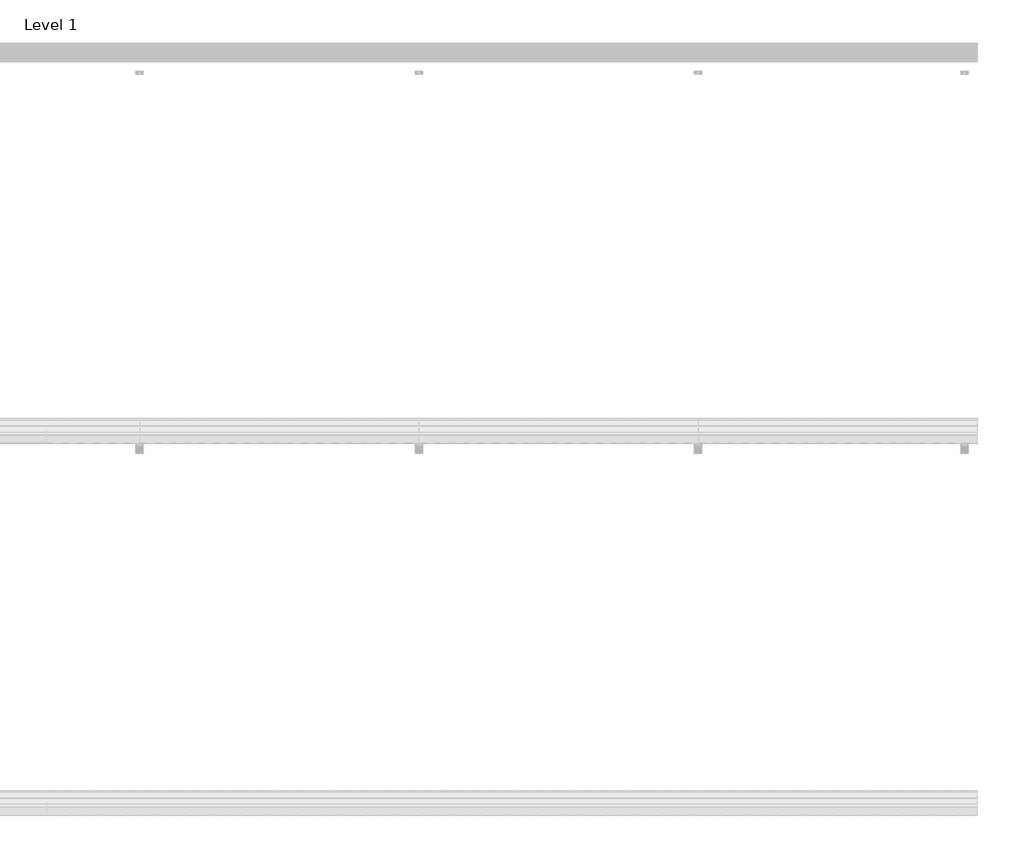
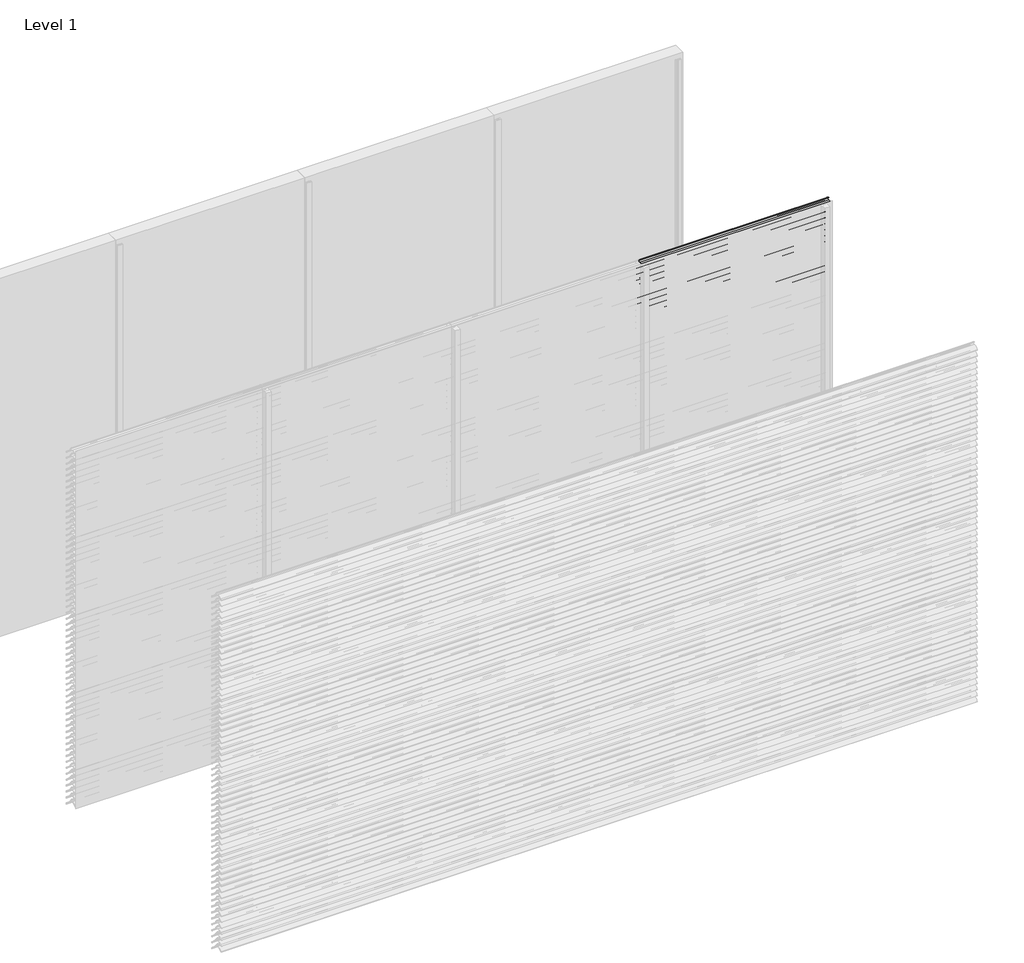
# One storey, part 85 of 173: 18 proxies.
"""IFC4 building model written with IfcOpenShell, lengths in millimetres."""

from ifc_helpers import new_model, si_unit, point, frame, frame_2d, origin, place, context, project, spatial, polyline, circle_curve, trimmed, segment, composite_curve, outline, extrude, element, save

model = new_model("IFC4")

# Units and contexts
model_context = context("Model", 3, world=origin())
ifc_project = project(units=[si_unit("LENGTHUNIT", "METRE", prefix="MILLI")], contexts=[model_context])

# Site, building, storey
site = spatial("IfcSite", under=ifc_project)
building = spatial("IfcBuilding", under=site)
storey = spatial("IfcBuildingStorey", under=building, Name="Level 1", Elevation=0.0)

# Proxies
placement = place(None, origin())
element("IfcBuildingElementProxy", 1, Name="Wall Sweeps", at=placement, inside=storey, context=model_context, shape_type="SweptSolid", body=[
    extrude(outline(composite_curve([segment(polyline([(-29998.0, 209.1474905), (-29998.0, 211.6227417)]), True, "CONTINUOUS"), segment(trimmed(circle_curve(frame_2d((-29951.2682172, 166.2200208)), 65.1557103), [point((-29998.0, 211.6227417))], [point((-29954.4014323, 231.3003524))], False, "CARTESIAN"), True, "CONTINUOUS"), segment(polyline([(-29954.4014323, 231.3003524), (-29934.8315836, 231.3003524)]), True, "CONTINUOUS"), segment(trimmed(circle_curve(frame_2d((-29732.7329489, 378.5533172)), 250.0545817), [point((-29934.8315836, 231.3003524))], [point((-29941.4452143, 240.8344583))], False, "CARTESIAN"), True, "CONTINUOUS"), segment(trimmed(circle_curve(frame_2d((-29953.2981792, 235.1737835)), 13.1352966), [point((-29941.4452143, 240.8344583))], [point((-29953.8171475, 248.298824))], True, "CARTESIAN"), True, "CONTINUOUS"), segment(polyline([(-29953.8171475, 248.298824), (-29953.8171475, 250.0)]), True, "CONTINUOUS"), segment(trimmed(circle_curve(frame_2d((-29953.2981792, 235.1737835)), 14.8352966), [point((-29953.8171475, 250.0))], [point((-29939.9637661, 241.6760487))], False, "CARTESIAN"), True, "CONTINUOUS"), segment(trimmed(circle_curve(frame_2d((-29732.7329489, 378.5533172)), 248.3545817), [point((-29939.9637661, 241.6760487))], [point((-29873.8787895, 174.2059416))], True, "CARTESIAN"), True, "CONTINUOUS"), segment(trimmed(circle_curve(frame_2d((-29883.8147537, 161.6649442)), 16.0), [point((-29873.8787895, 174.2059416))], [point((-29867.8648347, 160.4))], False, "CARTESIAN"), True, "CONTINUOUS"), segment(polyline([(-29867.8648347, 160.4), (-29869.6712069, 160.4)]), True, "CONTINUOUS"), segment(trimmed(circle_curve(frame_2d((-29883.8147537, 161.6649442)), 14.2), [point((-29869.6712069, 160.4))], [point((-29874.9518628, 172.7594998))], True, "CARTESIAN"), True, "CONTINUOUS"), segment(trimmed(circle_curve(frame_2d((-29732.7329489, 378.5533172)), 250.1545817), [point((-29874.9518628, 172.7594998))], [point((-29933.7064024, 229.6003524))], False, "CARTESIAN"), True, "CONTINUOUS"), segment(polyline([(-29933.7064024, 229.6003524), (-29954.3602632, 229.6003524)]), True, "CONTINUOUS"), segment(trimmed(circle_curve(frame_2d((-29951.2682172, 166.2200208)), 63.4557103), [point((-29954.3602632, 229.6003524))], [point((-29998.0, 209.1474905))], True, "CARTESIAN"), True, "CONTINUOUS")], self_intersect=False)), frame((3000.0, 0.0, 0.0), z_axis=(1.0, 0.0, 0.0), x_axis=(0.0, 1.0, 0.0)), (0.0, 0.0, 1.0), 1500.0),
])
element("IfcBuildingElementProxy", 2, Name="Wall Sweeps", at=placement, inside=storey, context=model_context, shape_type="SweptSolid", body=[
    extrude(outline(composite_curve([segment(polyline([(-29998.0, 159.1474905), (-29998.0, 161.6227417)]), True, "CONTINUOUS"), segment(trimmed(circle_curve(frame_2d((-29951.2682172, 116.2200208)), 65.1557103), [point((-29998.0, 161.6227417))], [point((-29954.4014323, 181.3003524))], False, "CARTESIAN"), True, "CONTINUOUS"), segment(polyline([(-29954.4014323, 181.3003524), (-29934.8315836, 181.3003524)]), True, "CONTINUOUS"), segment(trimmed(circle_curve(frame_2d((-29732.7329489, 328.5533172)), 250.0545817), [point((-29934.8315836, 181.3003524))], [point((-29941.4452143, 190.8344583))], False, "CARTESIAN"), True, "CONTINUOUS"), segment(trimmed(circle_curve(frame_2d((-29953.2981792, 185.1737835)), 13.1352966), [point((-29941.4452143, 190.8344583))], [point((-29953.8171475, 198.298824))], True, "CARTESIAN"), True, "CONTINUOUS"), segment(polyline([(-29953.8171475, 198.298824), (-29953.8171475, 200.0)]), True, "CONTINUOUS"), segment(trimmed(circle_curve(frame_2d((-29953.2981792, 185.1737835)), 14.8352966), [point((-29953.8171475, 200.0))], [point((-29939.9637661, 191.6760487))], False, "CARTESIAN"), True, "CONTINUOUS"), segment(trimmed(circle_curve(frame_2d((-29732.7329489, 328.5533172)), 248.3545817), [point((-29939.9637661, 191.6760487))], [point((-29873.8787895, 124.2059416))], True, "CARTESIAN"), True, "CONTINUOUS"), segment(trimmed(circle_curve(frame_2d((-29883.8147537, 111.6649442)), 16.0), [point((-29873.8787895, 124.2059416))], [point((-29867.8648347, 110.4))], False, "CARTESIAN"), True, "CONTINUOUS"), segment(polyline([(-29867.8648347, 110.4), (-29869.6712069, 110.4)]), True, "CONTINUOUS"), segment(trimmed(circle_curve(frame_2d((-29883.8147537, 111.6649442)), 14.2), [point((-29869.6712069, 110.4))], [point((-29874.9518628, 122.7594998))], True, "CARTESIAN"), True, "CONTINUOUS"), segment(trimmed(circle_curve(frame_2d((-29732.7329489, 328.5533172)), 250.1545817), [point((-29874.9518628, 122.7594998))], [point((-29933.7064024, 179.6003524))], False, "CARTESIAN"), True, "CONTINUOUS"), segment(polyline([(-29933.7064024, 179.6003524), (-29954.3602632, 179.6003524)]), True, "CONTINUOUS"), segment(trimmed(circle_curve(frame_2d((-29951.2682172, 116.2200208)), 63.4557103), [point((-29954.3602632, 179.6003524))], [point((-29998.0, 159.1474905))], True, "CARTESIAN"), True, "CONTINUOUS")], self_intersect=False)), frame((3000.0, 0.0, 0.0), z_axis=(1.0, 0.0, 0.0), x_axis=(0.0, 1.0, 0.0)), (0.0, 0.0, 1.0), 1500.0),
])
element("IfcBuildingElementProxy", 3, Name="Wall Sweeps", at=placement, inside=storey, context=model_context, shape_type="SweptSolid", body=[
    extrude(outline(composite_curve([segment(polyline([(-29998.0, 109.1474905), (-29998.0, 111.6227417)]), True, "CONTINUOUS"), segment(trimmed(circle_curve(frame_2d((-29951.2682172, 66.2200208)), 65.1557103), [point((-29998.0, 111.6227417))], [point((-29954.4014323, 131.3003524))], False, "CARTESIAN"), True, "CONTINUOUS"), segment(polyline([(-29954.4014323, 131.3003524), (-29934.8315836, 131.3003524)]), True, "CONTINUOUS"), segment(trimmed(circle_curve(frame_2d((-29732.7329489, 278.5533172)), 250.0545817), [point((-29934.8315836, 131.3003524))], [point((-29941.4452143, 140.8344583))], False, "CARTESIAN"), True, "CONTINUOUS"), segment(trimmed(circle_curve(frame_2d((-29953.2981792, 135.1737835)), 13.1352966), [point((-29941.4452143, 140.8344583))], [point((-29953.8171475, 148.298824))], True, "CARTESIAN"), True, "CONTINUOUS"), segment(polyline([(-29953.8171475, 148.298824), (-29953.8171475, 150.0)]), True, "CONTINUOUS"), segment(trimmed(circle_curve(frame_2d((-29953.2981792, 135.1737835)), 14.8352966), [point((-29953.8171475, 150.0))], [point((-29939.9637661, 141.6760487))], False, "CARTESIAN"), True, "CONTINUOUS"), segment(trimmed(circle_curve(frame_2d((-29732.7329489, 278.5533172)), 248.3545817), [point((-29939.9637661, 141.6760487))], [point((-29873.8787895, 74.2059416))], True, "CARTESIAN"), True, "CONTINUOUS"), segment(trimmed(circle_curve(frame_2d((-29883.8147537, 61.6649442)), 16.0), [point((-29873.8787895, 74.2059416))], [point((-29867.8648347, 60.4))], False, "CARTESIAN"), True, "CONTINUOUS"), segment(polyline([(-29867.8648347, 60.4), (-29869.6712069, 60.4)]), True, "CONTINUOUS"), segment(trimmed(circle_curve(frame_2d((-29883.8147537, 61.6649442)), 14.2), [point((-29869.6712069, 60.4))], [point((-29874.9518628, 72.7594998))], True, "CARTESIAN"), True, "CONTINUOUS"), segment(trimmed(circle_curve(frame_2d((-29732.7329489, 278.5533172)), 250.1545817), [point((-29874.9518628, 72.7594998))], [point((-29933.7064024, 129.6003524))], False, "CARTESIAN"), True, "CONTINUOUS"), segment(polyline([(-29933.7064024, 129.6003524), (-29954.3602632, 129.6003524)]), True, "CONTINUOUS"), segment(trimmed(circle_curve(frame_2d((-29951.2682172, 66.2200208)), 63.4557103), [point((-29954.3602632, 129.6003524))], [point((-29998.0, 109.1474905))], True, "CARTESIAN"), True, "CONTINUOUS")], self_intersect=False)), frame((3000.0, 0.0, 0.0), z_axis=(1.0, 0.0, 0.0), x_axis=(0.0, 1.0, 0.0)), (0.0, 0.0, 1.0), 1500.0),
])
element("IfcBuildingElementProxy", 4, Name="Wall Sweeps", at=placement, inside=storey, context=model_context, shape_type="SweptSolid", body=[
    extrude(outline(composite_curve([segment(polyline([(-29998.0, 59.1474905), (-29998.0, 61.6227417)]), True, "CONTINUOUS"), segment(trimmed(circle_curve(frame_2d((-29951.2682172, 16.2200208)), 65.1557103), [point((-29998.0, 61.6227417))], [point((-29954.4014323, 81.3003524))], False, "CARTESIAN"), True, "CONTINUOUS"), segment(polyline([(-29954.4014323, 81.3003524), (-29934.8315836, 81.3003524)]), True, "CONTINUOUS"), segment(trimmed(circle_curve(frame_2d((-29732.7329489, 228.5533172)), 250.0545817), [point((-29934.8315836, 81.3003524))], [point((-29941.4452143, 90.8344583))], False, "CARTESIAN"), True, "CONTINUOUS"), segment(trimmed(circle_curve(frame_2d((-29953.2981792, 85.1737835)), 13.1352966), [point((-29941.4452143, 90.8344583))], [point((-29953.8171475, 98.298824))], True, "CARTESIAN"), True, "CONTINUOUS"), segment(polyline([(-29953.8171475, 98.298824), (-29953.8171475, 100.0)]), True, "CONTINUOUS"), segment(trimmed(circle_curve(frame_2d((-29953.2981792, 85.1737835)), 14.8352966), [point((-29953.8171475, 100.0))], [point((-29939.9637661, 91.6760487))], False, "CARTESIAN"), True, "CONTINUOUS"), segment(trimmed(circle_curve(frame_2d((-29732.7329489, 228.5533172)), 248.3545817), [point((-29939.9637661, 91.6760487))], [point((-29873.8787895, 24.2059416))], True, "CARTESIAN"), True, "CONTINUOUS"), segment(trimmed(circle_curve(frame_2d((-29883.8147537, 11.6649442)), 16.0), [point((-29873.8787895, 24.2059416))], [point((-29867.8648347, 10.4))], False, "CARTESIAN"), True, "CONTINUOUS"), segment(polyline([(-29867.8648347, 10.4), (-29869.6712069, 10.4)]), True, "CONTINUOUS"), segment(trimmed(circle_curve(frame_2d((-29883.8147537, 11.6649442)), 14.2), [point((-29869.6712069, 10.4))], [point((-29874.9518628, 22.7594998))], True, "CARTESIAN"), True, "CONTINUOUS"), segment(trimmed(circle_curve(frame_2d((-29732.7329489, 228.5533172)), 250.1545817), [point((-29874.9518628, 22.7594998))], [point((-29933.7064024, 79.6003524))], False, "CARTESIAN"), True, "CONTINUOUS"), segment(polyline([(-29933.7064024, 79.6003524), (-29954.3602632, 79.6003524)]), True, "CONTINUOUS"), segment(trimmed(circle_curve(frame_2d((-29951.2682172, 16.2200208)), 63.4557103), [point((-29954.3602632, 79.6003524))], [point((-29998.0, 59.1474905))], True, "CARTESIAN"), True, "CONTINUOUS")], self_intersect=False)), frame((3000.0, 0.0, 0.0), z_axis=(1.0, 0.0, 0.0), x_axis=(0.0, 1.0, 0.0)), (0.0, 0.0, 1.0), 1500.0),
])
element("IfcBuildingElementProxy", 5, Name="Wall Sweeps", at=placement, inside=storey, context=model_context, shape_type="SweptSolid", body=[
    extrude(outline(composite_curve([segment(polyline([(-29998.0, 9.1474905), (-29998.0, 11.6227417)]), True, "CONTINUOUS"), segment(trimmed(circle_curve(frame_2d((-29951.2682172, -33.7799792)), 65.1557103), [point((-29998.0, 11.6227417))], [point((-29954.4014323, 31.3003524))], False, "CARTESIAN"), True, "CONTINUOUS"), segment(polyline([(-29954.4014323, 31.3003524), (-29934.8315836, 31.3003524)]), True, "CONTINUOUS"), segment(trimmed(circle_curve(frame_2d((-29732.7329489, 178.5533172)), 250.0545817), [point((-29934.8315836, 31.3003524))], [point((-29941.4452143, 40.8344583))], False, "CARTESIAN"), True, "CONTINUOUS"), segment(trimmed(circle_curve(frame_2d((-29953.2981792, 35.1737835)), 13.1352966), [point((-29941.4452143, 40.8344583))], [point((-29953.8171475, 48.298824))], True, "CARTESIAN"), True, "CONTINUOUS"), segment(polyline([(-29953.8171475, 48.298824), (-29953.8171475, 50.0)]), True, "CONTINUOUS"), segment(trimmed(circle_curve(frame_2d((-29953.2981792, 35.1737835)), 14.8352966), [point((-29953.8171475, 50.0))], [point((-29939.9637661, 41.6760487))], False, "CARTESIAN"), True, "CONTINUOUS"), segment(trimmed(circle_curve(frame_2d((-29732.7329489, 178.5533172)), 248.3545817), [point((-29939.9637661, 41.6760487))], [point((-29873.8787895, -25.7940584))], True, "CARTESIAN"), True, "CONTINUOUS"), segment(trimmed(circle_curve(frame_2d((-29883.8147537, -38.3350558)), 16.0), [point((-29873.8787895, -25.7940584))], [point((-29867.8648347, -39.6))], False, "CARTESIAN"), True, "CONTINUOUS"), segment(polyline([(-29867.8648347, -39.6), (-29869.6712069, -39.6)]), True, "CONTINUOUS"), segment(trimmed(circle_curve(frame_2d((-29883.8147537, -38.3350558)), 14.2), [point((-29869.6712069, -39.6))], [point((-29874.9518628, -27.2405002))], True, "CARTESIAN"), True, "CONTINUOUS"), segment(trimmed(circle_curve(frame_2d((-29732.7329489, 178.5533172)), 250.1545817), [point((-29874.9518628, -27.2405002))], [point((-29933.7064024, 29.6003524))], False, "CARTESIAN"), True, "CONTINUOUS"), segment(polyline([(-29933.7064024, 29.6003524), (-29954.3602632, 29.6003524)]), True, "CONTINUOUS"), segment(trimmed(circle_curve(frame_2d((-29951.2682172, -33.7799792)), 63.4557103), [point((-29954.3602632, 29.6003524))], [point((-29998.0, 9.1474905))], True, "CARTESIAN"), True, "CONTINUOUS")], self_intersect=False)), frame((3000.0, 0.0, 0.0), z_axis=(1.0, 0.0, 0.0), x_axis=(0.0, 1.0, 0.0)), (0.0, 0.0, 1.0), 1500.0),
])
element("IfcBuildingElementProxy", 6, Name="Wall Sweeps", at=placement, inside=storey, context=model_context, shape_type="SweptSolid", body=[
    extrude(outline(composite_curve([segment(polyline([(-29998.0, 2959.1474905), (-29998.0, 2961.6227417)]), True, "CONTINUOUS"), segment(trimmed(circle_curve(frame_2d((-29951.2682172, 2916.2200208)), 65.1557103), [point((-29998.0, 2961.6227417))], [point((-29954.4014323, 2981.3003524))], False, "CARTESIAN"), True, "CONTINUOUS"), segment(polyline([(-29954.4014323, 2981.3003524), (-29934.8315836, 2981.3003524)]), True, "CONTINUOUS"), segment(trimmed(circle_curve(frame_2d((-29732.7329489, 3128.5533172)), 250.0545817), [point((-29934.8315836, 2981.3003524))], [point((-29941.4452143, 2990.8344583))], False, "CARTESIAN"), True, "CONTINUOUS"), segment(trimmed(circle_curve(frame_2d((-29953.2981792, 2985.1737835)), 13.1352966), [point((-29941.4452143, 2990.8344583))], [point((-29953.8171475, 2998.298824))], True, "CARTESIAN"), True, "CONTINUOUS"), segment(polyline([(-29953.8171475, 2998.298824), (-29953.8171475, 3000.0)]), True, "CONTINUOUS"), segment(trimmed(circle_curve(frame_2d((-29953.2981792, 2985.1737835)), 14.8352966), [point((-29953.8171475, 3000.0))], [point((-29939.9637661, 2991.6760487))], False, "CARTESIAN"), True, "CONTINUOUS"), segment(trimmed(circle_curve(frame_2d((-29732.7329489, 3128.5533172)), 248.3545817), [point((-29939.9637661, 2991.6760487))], [point((-29873.8787895, 2924.2059416))], True, "CARTESIAN"), True, "CONTINUOUS"), segment(trimmed(circle_curve(frame_2d((-29883.8147537, 2911.6649442)), 16.0), [point((-29873.8787895, 2924.2059416))], [point((-29867.8648347, 2910.4))], False, "CARTESIAN"), True, "CONTINUOUS"), segment(polyline([(-29867.8648347, 2910.4), (-29869.6712069, 2910.4)]), True, "CONTINUOUS"), segment(trimmed(circle_curve(frame_2d((-29883.8147537, 2911.6649442)), 14.2), [point((-29869.6712069, 2910.4))], [point((-29874.9518628, 2922.7594998))], True, "CARTESIAN"), True, "CONTINUOUS"), segment(trimmed(circle_curve(frame_2d((-29732.7329489, 3128.5533172)), 250.1545817), [point((-29874.9518628, 2922.7594998))], [point((-29933.7064024, 2979.6003524))], False, "CARTESIAN"), True, "CONTINUOUS"), segment(polyline([(-29933.7064024, 2979.6003524), (-29954.3602632, 2979.6003524)]), True, "CONTINUOUS"), segment(trimmed(circle_curve(frame_2d((-29951.2682172, 2916.2200208)), 63.4557103), [point((-29954.3602632, 2979.6003524))], [point((-29998.0, 2959.1474905))], True, "CARTESIAN"), True, "CONTINUOUS")], self_intersect=False)), frame((4500.0, 0.0, 0.0), z_axis=(1.0, 0.0, 0.0), x_axis=(0.0, 1.0, 0.0)), (0.0, 0.0, 1.0), 1500.0),
])
element("IfcBuildingElementProxy", 7, Name="Wall Sweeps", at=placement, inside=storey, context=model_context, shape_type="SweptSolid", body=[
    extrude(outline(composite_curve([segment(polyline([(-29998.0, 2909.1474905), (-29998.0, 2911.6227417)]), True, "CONTINUOUS"), segment(trimmed(circle_curve(frame_2d((-29951.2682172, 2866.2200208)), 65.1557103), [point((-29998.0, 2911.6227417))], [point((-29954.4014323, 2931.3003524))], False, "CARTESIAN"), True, "CONTINUOUS"), segment(polyline([(-29954.4014323, 2931.3003524), (-29934.8315836, 2931.3003524)]), True, "CONTINUOUS"), segment(trimmed(circle_curve(frame_2d((-29732.7329489, 3078.5533172)), 250.0545817), [point((-29934.8315836, 2931.3003524))], [point((-29941.4452143, 2940.8344583))], False, "CARTESIAN"), True, "CONTINUOUS"), segment(trimmed(circle_curve(frame_2d((-29953.2981792, 2935.1737835)), 13.1352966), [point((-29941.4452143, 2940.8344583))], [point((-29953.8171475, 2948.298824))], True, "CARTESIAN"), True, "CONTINUOUS"), segment(polyline([(-29953.8171475, 2948.298824), (-29953.8171475, 2950.0)]), True, "CONTINUOUS"), segment(trimmed(circle_curve(frame_2d((-29953.2981792, 2935.1737835)), 14.8352966), [point((-29953.8171475, 2950.0))], [point((-29939.9637661, 2941.6760487))], False, "CARTESIAN"), True, "CONTINUOUS"), segment(trimmed(circle_curve(frame_2d((-29732.7329489, 3078.5533172)), 248.3545817), [point((-29939.9637661, 2941.6760487))], [point((-29873.8787895, 2874.2059416))], True, "CARTESIAN"), True, "CONTINUOUS"), segment(trimmed(circle_curve(frame_2d((-29883.8147537, 2861.6649442)), 16.0), [point((-29873.8787895, 2874.2059416))], [point((-29867.8648347, 2860.4))], False, "CARTESIAN"), True, "CONTINUOUS"), segment(polyline([(-29867.8648347, 2860.4), (-29869.6712069, 2860.4)]), True, "CONTINUOUS"), segment(trimmed(circle_curve(frame_2d((-29883.8147537, 2861.6649442)), 14.2), [point((-29869.6712069, 2860.4))], [point((-29874.9518628, 2872.7594998))], True, "CARTESIAN"), True, "CONTINUOUS"), segment(trimmed(circle_curve(frame_2d((-29732.7329489, 3078.5533172)), 250.1545817), [point((-29874.9518628, 2872.7594998))], [point((-29933.7064024, 2929.6003524))], False, "CARTESIAN"), True, "CONTINUOUS"), segment(polyline([(-29933.7064024, 2929.6003524), (-29954.3602632, 2929.6003524)]), True, "CONTINUOUS"), segment(trimmed(circle_curve(frame_2d((-29951.2682172, 2866.2200208)), 63.4557103), [point((-29954.3602632, 2929.6003524))], [point((-29998.0, 2909.1474905))], True, "CARTESIAN"), True, "CONTINUOUS")], self_intersect=False)), frame((4500.0, 0.0, 0.0), z_axis=(1.0, 0.0, 0.0), x_axis=(0.0, 1.0, 0.0)), (0.0, 0.0, 1.0), 1500.0),
])
element("IfcBuildingElementProxy", 8, Name="Wall Sweeps", at=placement, inside=storey, context=model_context, shape_type="SweptSolid", body=[
    extrude(outline(composite_curve([segment(polyline([(-29998.0, 2859.1474905), (-29998.0, 2861.6227417)]), True, "CONTINUOUS"), segment(trimmed(circle_curve(frame_2d((-29951.2682172, 2816.2200208)), 65.1557103), [point((-29998.0, 2861.6227417))], [point((-29954.4014323, 2881.3003524))], False, "CARTESIAN"), True, "CONTINUOUS"), segment(polyline([(-29954.4014323, 2881.3003524), (-29934.8315836, 2881.3003524)]), True, "CONTINUOUS"), segment(trimmed(circle_curve(frame_2d((-29732.7329489, 3028.5533172)), 250.0545817), [point((-29934.8315836, 2881.3003524))], [point((-29941.4452143, 2890.8344583))], False, "CARTESIAN"), True, "CONTINUOUS"), segment(trimmed(circle_curve(frame_2d((-29953.2981792, 2885.1737835)), 13.1352966), [point((-29941.4452143, 2890.8344583))], [point((-29953.8171475, 2898.298824))], True, "CARTESIAN"), True, "CONTINUOUS"), segment(polyline([(-29953.8171475, 2898.298824), (-29953.8171475, 2900.0)]), True, "CONTINUOUS"), segment(trimmed(circle_curve(frame_2d((-29953.2981792, 2885.1737835)), 14.8352966), [point((-29953.8171475, 2900.0))], [point((-29939.9637661, 2891.6760487))], False, "CARTESIAN"), True, "CONTINUOUS"), segment(trimmed(circle_curve(frame_2d((-29732.7329489, 3028.5533172)), 248.3545817), [point((-29939.9637661, 2891.6760487))], [point((-29873.8787895, 2824.2059416))], True, "CARTESIAN"), True, "CONTINUOUS"), segment(trimmed(circle_curve(frame_2d((-29883.8147537, 2811.6649442)), 16.0), [point((-29873.8787895, 2824.2059416))], [point((-29867.8648347, 2810.4))], False, "CARTESIAN"), True, "CONTINUOUS"), segment(polyline([(-29867.8648347, 2810.4), (-29869.6712069, 2810.4)]), True, "CONTINUOUS"), segment(trimmed(circle_curve(frame_2d((-29883.8147537, 2811.6649442)), 14.2), [point((-29869.6712069, 2810.4))], [point((-29874.9518628, 2822.7594998))], True, "CARTESIAN"), True, "CONTINUOUS"), segment(trimmed(circle_curve(frame_2d((-29732.7329489, 3028.5533172)), 250.1545817), [point((-29874.9518628, 2822.7594998))], [point((-29933.7064024, 2879.6003524))], False, "CARTESIAN"), True, "CONTINUOUS"), segment(polyline([(-29933.7064024, 2879.6003524), (-29954.3602632, 2879.6003524)]), True, "CONTINUOUS"), segment(trimmed(circle_curve(frame_2d((-29951.2682172, 2816.2200208)), 63.4557103), [point((-29954.3602632, 2879.6003524))], [point((-29998.0, 2859.1474905))], True, "CARTESIAN"), True, "CONTINUOUS")], self_intersect=False)), frame((4500.0, 0.0, 0.0), z_axis=(1.0, 0.0, 0.0), x_axis=(0.0, 1.0, 0.0)), (0.0, 0.0, 1.0), 1500.0),
])
element("IfcBuildingElementProxy", 9, Name="Wall Sweeps", at=placement, inside=storey, context=model_context, shape_type="SweptSolid", body=[
    extrude(outline(composite_curve([segment(polyline([(-29998.0, 2809.1474905), (-29998.0, 2811.6227417)]), True, "CONTINUOUS"), segment(trimmed(circle_curve(frame_2d((-29951.2682172, 2766.2200208)), 65.1557103), [point((-29998.0, 2811.6227417))], [point((-29954.4014323, 2831.3003524))], False, "CARTESIAN"), True, "CONTINUOUS"), segment(polyline([(-29954.4014323, 2831.3003524), (-29934.8315836, 2831.3003524)]), True, "CONTINUOUS"), segment(trimmed(circle_curve(frame_2d((-29732.7329489, 2978.5533172)), 250.0545817), [point((-29934.8315836, 2831.3003524))], [point((-29941.4452143, 2840.8344583))], False, "CARTESIAN"), True, "CONTINUOUS"), segment(trimmed(circle_curve(frame_2d((-29953.2981792, 2835.1737835)), 13.1352966), [point((-29941.4452143, 2840.8344583))], [point((-29953.8171475, 2848.298824))], True, "CARTESIAN"), True, "CONTINUOUS"), segment(polyline([(-29953.8171475, 2848.298824), (-29953.8171475, 2850.0)]), True, "CONTINUOUS"), segment(trimmed(circle_curve(frame_2d((-29953.2981792, 2835.1737835)), 14.8352966), [point((-29953.8171475, 2850.0))], [point((-29939.9637661, 2841.6760487))], False, "CARTESIAN"), True, "CONTINUOUS"), segment(trimmed(circle_curve(frame_2d((-29732.7329489, 2978.5533172)), 248.3545817), [point((-29939.9637661, 2841.6760487))], [point((-29873.8787895, 2774.2059416))], True, "CARTESIAN"), True, "CONTINUOUS"), segment(trimmed(circle_curve(frame_2d((-29883.8147537, 2761.6649442)), 16.0), [point((-29873.8787895, 2774.2059416))], [point((-29867.8648347, 2760.4))], False, "CARTESIAN"), True, "CONTINUOUS"), segment(polyline([(-29867.8648347, 2760.4), (-29869.6712069, 2760.4)]), True, "CONTINUOUS"), segment(trimmed(circle_curve(frame_2d((-29883.8147537, 2761.6649442)), 14.2), [point((-29869.6712069, 2760.4))], [point((-29874.9518628, 2772.7594998))], True, "CARTESIAN"), True, "CONTINUOUS"), segment(trimmed(circle_curve(frame_2d((-29732.7329489, 2978.5533172)), 250.1545817), [point((-29874.9518628, 2772.7594998))], [point((-29933.7064024, 2829.6003524))], False, "CARTESIAN"), True, "CONTINUOUS"), segment(polyline([(-29933.7064024, 2829.6003524), (-29954.3602632, 2829.6003524)]), True, "CONTINUOUS"), segment(trimmed(circle_curve(frame_2d((-29951.2682172, 2766.2200208)), 63.4557103), [point((-29954.3602632, 2829.6003524))], [point((-29998.0, 2809.1474905))], True, "CARTESIAN"), True, "CONTINUOUS")], self_intersect=False)), frame((4500.0, 0.0, 0.0), z_axis=(1.0, 0.0, 0.0), x_axis=(0.0, 1.0, 0.0)), (0.0, 0.0, 1.0), 1500.0),
])
element("IfcBuildingElementProxy", 10, Name="Wall Sweeps", at=placement, inside=storey, context=model_context, shape_type="SweptSolid", body=[
    extrude(outline(composite_curve([segment(polyline([(-29998.0, 2759.1474905), (-29998.0, 2761.6227417)]), True, "CONTINUOUS"), segment(trimmed(circle_curve(frame_2d((-29951.2682172, 2716.2200208)), 65.1557103), [point((-29998.0, 2761.6227417))], [point((-29954.4014323, 2781.3003524))], False, "CARTESIAN"), True, "CONTINUOUS"), segment(polyline([(-29954.4014323, 2781.3003524), (-29934.8315836, 2781.3003524)]), True, "CONTINUOUS"), segment(trimmed(circle_curve(frame_2d((-29732.7329489, 2928.5533172)), 250.0545817), [point((-29934.8315836, 2781.3003524))], [point((-29941.4452143, 2790.8344583))], False, "CARTESIAN"), True, "CONTINUOUS"), segment(trimmed(circle_curve(frame_2d((-29953.2981792, 2785.1737835)), 13.1352966), [point((-29941.4452143, 2790.8344583))], [point((-29953.8171475, 2798.298824))], True, "CARTESIAN"), True, "CONTINUOUS"), segment(polyline([(-29953.8171475, 2798.298824), (-29953.8171475, 2800.0)]), True, "CONTINUOUS"), segment(trimmed(circle_curve(frame_2d((-29953.2981792, 2785.1737835)), 14.8352966), [point((-29953.8171475, 2800.0))], [point((-29939.9637661, 2791.6760487))], False, "CARTESIAN"), True, "CONTINUOUS"), segment(trimmed(circle_curve(frame_2d((-29732.7329489, 2928.5533172)), 248.3545817), [point((-29939.9637661, 2791.6760487))], [point((-29873.8787895, 2724.2059416))], True, "CARTESIAN"), True, "CONTINUOUS"), segment(trimmed(circle_curve(frame_2d((-29883.8147537, 2711.6649442)), 16.0), [point((-29873.8787895, 2724.2059416))], [point((-29867.8648347, 2710.4))], False, "CARTESIAN"), True, "CONTINUOUS"), segment(polyline([(-29867.8648347, 2710.4), (-29869.6712069, 2710.4)]), True, "CONTINUOUS"), segment(trimmed(circle_curve(frame_2d((-29883.8147537, 2711.6649442)), 14.2), [point((-29869.6712069, 2710.4))], [point((-29874.9518628, 2722.7594998))], True, "CARTESIAN"), True, "CONTINUOUS"), segment(trimmed(circle_curve(frame_2d((-29732.7329489, 2928.5533172)), 250.1545817), [point((-29874.9518628, 2722.7594998))], [point((-29933.7064024, 2779.6003524))], False, "CARTESIAN"), True, "CONTINUOUS"), segment(polyline([(-29933.7064024, 2779.6003524), (-29954.3602632, 2779.6003524)]), True, "CONTINUOUS"), segment(trimmed(circle_curve(frame_2d((-29951.2682172, 2716.2200208)), 63.4557103), [point((-29954.3602632, 2779.6003524))], [point((-29998.0, 2759.1474905))], True, "CARTESIAN"), True, "CONTINUOUS")], self_intersect=False)), frame((4500.0, 0.0, 0.0), z_axis=(1.0, 0.0, 0.0), x_axis=(0.0, 1.0, 0.0)), (0.0, 0.0, 1.0), 1500.0),
])
element("IfcBuildingElementProxy", 11, Name="Wall Sweeps", at=placement, inside=storey, context=model_context, shape_type="SweptSolid", body=[
    extrude(outline(composite_curve([segment(polyline([(-29998.0, 2709.1474905), (-29998.0, 2711.6227417)]), True, "CONTINUOUS"), segment(trimmed(circle_curve(frame_2d((-29951.2682172, 2666.2200208)), 65.1557103), [point((-29998.0, 2711.6227417))], [point((-29954.4014323, 2731.3003524))], False, "CARTESIAN"), True, "CONTINUOUS"), segment(polyline([(-29954.4014323, 2731.3003524), (-29934.8315836, 2731.3003524)]), True, "CONTINUOUS"), segment(trimmed(circle_curve(frame_2d((-29732.7329489, 2878.5533172)), 250.0545817), [point((-29934.8315836, 2731.3003524))], [point((-29941.4452143, 2740.8344583))], False, "CARTESIAN"), True, "CONTINUOUS"), segment(trimmed(circle_curve(frame_2d((-29953.2981792, 2735.1737835)), 13.1352966), [point((-29941.4452143, 2740.8344583))], [point((-29953.8171475, 2748.298824))], True, "CARTESIAN"), True, "CONTINUOUS"), segment(polyline([(-29953.8171475, 2748.298824), (-29953.8171475, 2750.0)]), True, "CONTINUOUS"), segment(trimmed(circle_curve(frame_2d((-29953.2981792, 2735.1737835)), 14.8352966), [point((-29953.8171475, 2750.0))], [point((-29939.9637661, 2741.6760487))], False, "CARTESIAN"), True, "CONTINUOUS"), segment(trimmed(circle_curve(frame_2d((-29732.7329489, 2878.5533172)), 248.3545817), [point((-29939.9637661, 2741.6760487))], [point((-29873.8787895, 2674.2059416))], True, "CARTESIAN"), True, "CONTINUOUS"), segment(trimmed(circle_curve(frame_2d((-29883.8147537, 2661.6649442)), 16.0), [point((-29873.8787895, 2674.2059416))], [point((-29867.8648347, 2660.4))], False, "CARTESIAN"), True, "CONTINUOUS"), segment(polyline([(-29867.8648347, 2660.4), (-29869.6712069, 2660.4)]), True, "CONTINUOUS"), segment(trimmed(circle_curve(frame_2d((-29883.8147537, 2661.6649442)), 14.2), [point((-29869.6712069, 2660.4))], [point((-29874.9518628, 2672.7594998))], True, "CARTESIAN"), True, "CONTINUOUS"), segment(trimmed(circle_curve(frame_2d((-29732.7329489, 2878.5533172)), 250.1545817), [point((-29874.9518628, 2672.7594998))], [point((-29933.7064024, 2729.6003524))], False, "CARTESIAN"), True, "CONTINUOUS"), segment(polyline([(-29933.7064024, 2729.6003524), (-29954.3602632, 2729.6003524)]), True, "CONTINUOUS"), segment(trimmed(circle_curve(frame_2d((-29951.2682172, 2666.2200208)), 63.4557103), [point((-29954.3602632, 2729.6003524))], [point((-29998.0, 2709.1474905))], True, "CARTESIAN"), True, "CONTINUOUS")], self_intersect=False)), frame((4500.0, 0.0, 0.0), z_axis=(1.0, 0.0, 0.0), x_axis=(0.0, 1.0, 0.0)), (0.0, 0.0, 1.0), 1500.0),
])
element("IfcBuildingElementProxy", 12, Name="Wall Sweeps", at=placement, inside=storey, context=model_context, shape_type="SweptSolid", body=[
    extrude(outline(composite_curve([segment(polyline([(-29998.0, 2659.1474905), (-29998.0, 2661.6227417)]), True, "CONTINUOUS"), segment(trimmed(circle_curve(frame_2d((-29951.2682172, 2616.2200208)), 65.1557103), [point((-29998.0, 2661.6227417))], [point((-29954.4014323, 2681.3003524))], False, "CARTESIAN"), True, "CONTINUOUS"), segment(polyline([(-29954.4014323, 2681.3003524), (-29934.8315836, 2681.3003524)]), True, "CONTINUOUS"), segment(trimmed(circle_curve(frame_2d((-29732.7329489, 2828.5533172)), 250.0545817), [point((-29934.8315836, 2681.3003524))], [point((-29941.4452143, 2690.8344583))], False, "CARTESIAN"), True, "CONTINUOUS"), segment(trimmed(circle_curve(frame_2d((-29953.2981792, 2685.1737835)), 13.1352966), [point((-29941.4452143, 2690.8344583))], [point((-29953.8171475, 2698.298824))], True, "CARTESIAN"), True, "CONTINUOUS"), segment(polyline([(-29953.8171475, 2698.298824), (-29953.8171475, 2700.0)]), True, "CONTINUOUS"), segment(trimmed(circle_curve(frame_2d((-29953.2981792, 2685.1737835)), 14.8352966), [point((-29953.8171475, 2700.0))], [point((-29939.9637661, 2691.6760487))], False, "CARTESIAN"), True, "CONTINUOUS"), segment(trimmed(circle_curve(frame_2d((-29732.7329489, 2828.5533172)), 248.3545817), [point((-29939.9637661, 2691.6760487))], [point((-29873.8787895, 2624.2059416))], True, "CARTESIAN"), True, "CONTINUOUS"), segment(trimmed(circle_curve(frame_2d((-29883.8147537, 2611.6649442)), 16.0), [point((-29873.8787895, 2624.2059416))], [point((-29867.8648347, 2610.4))], False, "CARTESIAN"), True, "CONTINUOUS"), segment(polyline([(-29867.8648347, 2610.4), (-29869.6712069, 2610.4)]), True, "CONTINUOUS"), segment(trimmed(circle_curve(frame_2d((-29883.8147537, 2611.6649442)), 14.2), [point((-29869.6712069, 2610.4))], [point((-29874.9518628, 2622.7594998))], True, "CARTESIAN"), True, "CONTINUOUS"), segment(trimmed(circle_curve(frame_2d((-29732.7329489, 2828.5533172)), 250.1545817), [point((-29874.9518628, 2622.7594998))], [point((-29933.7064024, 2679.6003524))], False, "CARTESIAN"), True, "CONTINUOUS"), segment(polyline([(-29933.7064024, 2679.6003524), (-29954.3602632, 2679.6003524)]), True, "CONTINUOUS"), segment(trimmed(circle_curve(frame_2d((-29951.2682172, 2616.2200208)), 63.4557103), [point((-29954.3602632, 2679.6003524))], [point((-29998.0, 2659.1474905))], True, "CARTESIAN"), True, "CONTINUOUS")], self_intersect=False)), frame((4500.0, 0.0, 0.0), z_axis=(1.0, 0.0, 0.0), x_axis=(0.0, 1.0, 0.0)), (0.0, 0.0, 1.0), 1500.0),
])
element("IfcBuildingElementProxy", 13, Name="Wall Sweeps", at=placement, inside=storey, context=model_context, shape_type="SweptSolid", body=[
    extrude(outline(composite_curve([segment(polyline([(-29998.0, 2609.1474905), (-29998.0, 2611.6227417)]), True, "CONTINUOUS"), segment(trimmed(circle_curve(frame_2d((-29951.2682172, 2566.2200208)), 65.1557103), [point((-29998.0, 2611.6227417))], [point((-29954.4014323, 2631.3003524))], False, "CARTESIAN"), True, "CONTINUOUS"), segment(polyline([(-29954.4014323, 2631.3003524), (-29934.8315836, 2631.3003524)]), True, "CONTINUOUS"), segment(trimmed(circle_curve(frame_2d((-29732.7329489, 2778.5533172)), 250.0545817), [point((-29934.8315836, 2631.3003524))], [point((-29941.4452143, 2640.8344583))], False, "CARTESIAN"), True, "CONTINUOUS"), segment(trimmed(circle_curve(frame_2d((-29953.2981792, 2635.1737835)), 13.1352966), [point((-29941.4452143, 2640.8344583))], [point((-29953.8171475, 2648.298824))], True, "CARTESIAN"), True, "CONTINUOUS"), segment(polyline([(-29953.8171475, 2648.298824), (-29953.8171475, 2650.0)]), True, "CONTINUOUS"), segment(trimmed(circle_curve(frame_2d((-29953.2981792, 2635.1737835)), 14.8352966), [point((-29953.8171475, 2650.0))], [point((-29939.9637661, 2641.6760487))], False, "CARTESIAN"), True, "CONTINUOUS"), segment(trimmed(circle_curve(frame_2d((-29732.7329489, 2778.5533172)), 248.3545817), [point((-29939.9637661, 2641.6760487))], [point((-29873.8787895, 2574.2059416))], True, "CARTESIAN"), True, "CONTINUOUS"), segment(trimmed(circle_curve(frame_2d((-29883.8147537, 2561.6649442)), 16.0), [point((-29873.8787895, 2574.2059416))], [point((-29867.8648347, 2560.4))], False, "CARTESIAN"), True, "CONTINUOUS"), segment(polyline([(-29867.8648347, 2560.4), (-29869.6712069, 2560.4)]), True, "CONTINUOUS"), segment(trimmed(circle_curve(frame_2d((-29883.8147537, 2561.6649442)), 14.2), [point((-29869.6712069, 2560.4))], [point((-29874.9518628, 2572.7594998))], True, "CARTESIAN"), True, "CONTINUOUS"), segment(trimmed(circle_curve(frame_2d((-29732.7329489, 2778.5533172)), 250.1545817), [point((-29874.9518628, 2572.7594998))], [point((-29933.7064024, 2629.6003524))], False, "CARTESIAN"), True, "CONTINUOUS"), segment(polyline([(-29933.7064024, 2629.6003524), (-29954.3602632, 2629.6003524)]), True, "CONTINUOUS"), segment(trimmed(circle_curve(frame_2d((-29951.2682172, 2566.2200208)), 63.4557103), [point((-29954.3602632, 2629.6003524))], [point((-29998.0, 2609.1474905))], True, "CARTESIAN"), True, "CONTINUOUS")], self_intersect=False)), frame((4500.0, 0.0, 0.0), z_axis=(1.0, 0.0, 0.0), x_axis=(0.0, 1.0, 0.0)), (0.0, 0.0, 1.0), 1500.0),
])
element("IfcBuildingElementProxy", 14, Name="Wall Sweeps", at=placement, inside=storey, context=model_context, shape_type="SweptSolid", body=[
    extrude(outline(composite_curve([segment(polyline([(-29998.0, 2559.1474905), (-29998.0, 2561.6227417)]), True, "CONTINUOUS"), segment(trimmed(circle_curve(frame_2d((-29951.2682172, 2516.2200208)), 65.1557103), [point((-29998.0, 2561.6227417))], [point((-29954.4014323, 2581.3003524))], False, "CARTESIAN"), True, "CONTINUOUS"), segment(polyline([(-29954.4014323, 2581.3003524), (-29934.8315836, 2581.3003524)]), True, "CONTINUOUS"), segment(trimmed(circle_curve(frame_2d((-29732.7329489, 2728.5533172)), 250.0545817), [point((-29934.8315836, 2581.3003524))], [point((-29941.4452143, 2590.8344583))], False, "CARTESIAN"), True, "CONTINUOUS"), segment(trimmed(circle_curve(frame_2d((-29953.2981792, 2585.1737835)), 13.1352966), [point((-29941.4452143, 2590.8344583))], [point((-29953.8171475, 2598.298824))], True, "CARTESIAN"), True, "CONTINUOUS"), segment(polyline([(-29953.8171475, 2598.298824), (-29953.8171475, 2600.0)]), True, "CONTINUOUS"), segment(trimmed(circle_curve(frame_2d((-29953.2981792, 2585.1737835)), 14.8352966), [point((-29953.8171475, 2600.0))], [point((-29939.9637661, 2591.6760487))], False, "CARTESIAN"), True, "CONTINUOUS"), segment(trimmed(circle_curve(frame_2d((-29732.7329489, 2728.5533172)), 248.3545817), [point((-29939.9637661, 2591.6760487))], [point((-29873.8787895, 2524.2059416))], True, "CARTESIAN"), True, "CONTINUOUS"), segment(trimmed(circle_curve(frame_2d((-29883.8147537, 2511.6649442)), 16.0), [point((-29873.8787895, 2524.2059416))], [point((-29867.8648347, 2510.4))], False, "CARTESIAN"), True, "CONTINUOUS"), segment(polyline([(-29867.8648347, 2510.4), (-29869.6712069, 2510.4)]), True, "CONTINUOUS"), segment(trimmed(circle_curve(frame_2d((-29883.8147537, 2511.6649442)), 14.2), [point((-29869.6712069, 2510.4))], [point((-29874.9518628, 2522.7594998))], True, "CARTESIAN"), True, "CONTINUOUS"), segment(trimmed(circle_curve(frame_2d((-29732.7329489, 2728.5533172)), 250.1545817), [point((-29874.9518628, 2522.7594998))], [point((-29933.7064024, 2579.6003524))], False, "CARTESIAN"), True, "CONTINUOUS"), segment(polyline([(-29933.7064024, 2579.6003524), (-29954.3602632, 2579.6003524)]), True, "CONTINUOUS"), segment(trimmed(circle_curve(frame_2d((-29951.2682172, 2516.2200208)), 63.4557103), [point((-29954.3602632, 2579.6003524))], [point((-29998.0, 2559.1474905))], True, "CARTESIAN"), True, "CONTINUOUS")], self_intersect=False)), frame((4500.0, 0.0, 0.0), z_axis=(1.0, 0.0, 0.0), x_axis=(0.0, 1.0, 0.0)), (0.0, 0.0, 1.0), 1500.0),
])
element("IfcBuildingElementProxy", 15, Name="Wall Sweeps", at=placement, inside=storey, context=model_context, shape_type="SweptSolid", body=[
    extrude(outline(composite_curve([segment(polyline([(-29998.0, 2509.1474905), (-29998.0, 2511.6227417)]), True, "CONTINUOUS"), segment(trimmed(circle_curve(frame_2d((-29951.2682172, 2466.2200208)), 65.1557103), [point((-29998.0, 2511.6227417))], [point((-29954.4014323, 2531.3003524))], False, "CARTESIAN"), True, "CONTINUOUS"), segment(polyline([(-29954.4014323, 2531.3003524), (-29934.8315836, 2531.3003524)]), True, "CONTINUOUS"), segment(trimmed(circle_curve(frame_2d((-29732.7329489, 2678.5533172)), 250.0545817), [point((-29934.8315836, 2531.3003524))], [point((-29941.4452143, 2540.8344583))], False, "CARTESIAN"), True, "CONTINUOUS"), segment(trimmed(circle_curve(frame_2d((-29953.2981792, 2535.1737835)), 13.1352966), [point((-29941.4452143, 2540.8344583))], [point((-29953.8171475, 2548.298824))], True, "CARTESIAN"), True, "CONTINUOUS"), segment(polyline([(-29953.8171475, 2548.298824), (-29953.8171475, 2550.0)]), True, "CONTINUOUS"), segment(trimmed(circle_curve(frame_2d((-29953.2981792, 2535.1737835)), 14.8352966), [point((-29953.8171475, 2550.0))], [point((-29939.9637661, 2541.6760487))], False, "CARTESIAN"), True, "CONTINUOUS"), segment(trimmed(circle_curve(frame_2d((-29732.7329489, 2678.5533172)), 248.3545817), [point((-29939.9637661, 2541.6760487))], [point((-29873.8787895, 2474.2059416))], True, "CARTESIAN"), True, "CONTINUOUS"), segment(trimmed(circle_curve(frame_2d((-29883.8147537, 2461.6649442)), 16.0), [point((-29873.8787895, 2474.2059416))], [point((-29867.8648347, 2460.4))], False, "CARTESIAN"), True, "CONTINUOUS"), segment(polyline([(-29867.8648347, 2460.4), (-29869.6712069, 2460.4)]), True, "CONTINUOUS"), segment(trimmed(circle_curve(frame_2d((-29883.8147537, 2461.6649442)), 14.2), [point((-29869.6712069, 2460.4))], [point((-29874.9518628, 2472.7594998))], True, "CARTESIAN"), True, "CONTINUOUS"), segment(trimmed(circle_curve(frame_2d((-29732.7329489, 2678.5533172)), 250.1545817), [point((-29874.9518628, 2472.7594998))], [point((-29933.7064024, 2529.6003524))], False, "CARTESIAN"), True, "CONTINUOUS"), segment(polyline([(-29933.7064024, 2529.6003524), (-29954.3602632, 2529.6003524)]), True, "CONTINUOUS"), segment(trimmed(circle_curve(frame_2d((-29951.2682172, 2466.2200208)), 63.4557103), [point((-29954.3602632, 2529.6003524))], [point((-29998.0, 2509.1474905))], True, "CARTESIAN"), True, "CONTINUOUS")], self_intersect=False)), frame((4500.0, 0.0, 0.0), z_axis=(1.0, 0.0, 0.0), x_axis=(0.0, 1.0, 0.0)), (0.0, 0.0, 1.0), 1500.0),
])
element("IfcBuildingElementProxy", 16, Name="Wall Sweeps", at=placement, inside=storey, context=model_context, shape_type="SweptSolid", body=[
    extrude(outline(composite_curve([segment(polyline([(-29998.0, 2459.1474905), (-29998.0, 2461.6227417)]), True, "CONTINUOUS"), segment(trimmed(circle_curve(frame_2d((-29951.2682172, 2416.2200208)), 65.1557103), [point((-29998.0, 2461.6227417))], [point((-29954.4014323, 2481.3003524))], False, "CARTESIAN"), True, "CONTINUOUS"), segment(polyline([(-29954.4014323, 2481.3003524), (-29934.8315836, 2481.3003524)]), True, "CONTINUOUS"), segment(trimmed(circle_curve(frame_2d((-29732.7329489, 2628.5533172)), 250.0545817), [point((-29934.8315836, 2481.3003524))], [point((-29941.4452143, 2490.8344583))], False, "CARTESIAN"), True, "CONTINUOUS"), segment(trimmed(circle_curve(frame_2d((-29953.2981792, 2485.1737835)), 13.1352966), [point((-29941.4452143, 2490.8344583))], [point((-29953.8171475, 2498.298824))], True, "CARTESIAN"), True, "CONTINUOUS"), segment(polyline([(-29953.8171475, 2498.298824), (-29953.8171475, 2500.0)]), True, "CONTINUOUS"), segment(trimmed(circle_curve(frame_2d((-29953.2981792, 2485.1737835)), 14.8352966), [point((-29953.8171475, 2500.0))], [point((-29939.9637661, 2491.6760487))], False, "CARTESIAN"), True, "CONTINUOUS"), segment(trimmed(circle_curve(frame_2d((-29732.7329489, 2628.5533172)), 248.3545817), [point((-29939.9637661, 2491.6760487))], [point((-29873.8787895, 2424.2059416))], True, "CARTESIAN"), True, "CONTINUOUS"), segment(trimmed(circle_curve(frame_2d((-29883.8147537, 2411.6649442)), 16.0), [point((-29873.8787895, 2424.2059416))], [point((-29867.8648347, 2410.4))], False, "CARTESIAN"), True, "CONTINUOUS"), segment(polyline([(-29867.8648347, 2410.4), (-29869.6712069, 2410.4)]), True, "CONTINUOUS"), segment(trimmed(circle_curve(frame_2d((-29883.8147537, 2411.6649442)), 14.2), [point((-29869.6712069, 2410.4))], [point((-29874.9518628, 2422.7594998))], True, "CARTESIAN"), True, "CONTINUOUS"), segment(trimmed(circle_curve(frame_2d((-29732.7329489, 2628.5533172)), 250.1545817), [point((-29874.9518628, 2422.7594998))], [point((-29933.7064024, 2479.6003524))], False, "CARTESIAN"), True, "CONTINUOUS"), segment(polyline([(-29933.7064024, 2479.6003524), (-29954.3602632, 2479.6003524)]), True, "CONTINUOUS"), segment(trimmed(circle_curve(frame_2d((-29951.2682172, 2416.2200208)), 63.4557103), [point((-29954.3602632, 2479.6003524))], [point((-29998.0, 2459.1474905))], True, "CARTESIAN"), True, "CONTINUOUS")], self_intersect=False)), frame((4500.0, 0.0, 0.0), z_axis=(1.0, 0.0, 0.0), x_axis=(0.0, 1.0, 0.0)), (0.0, 0.0, 1.0), 1500.0),
])
element("IfcBuildingElementProxy", 17, Name="Wall Sweeps", at=placement, inside=storey, context=model_context, shape_type="SweptSolid", body=[
    extrude(outline(composite_curve([segment(polyline([(-29998.0, 2409.1474905), (-29998.0, 2411.6227417)]), True, "CONTINUOUS"), segment(trimmed(circle_curve(frame_2d((-29951.2682172, 2366.2200208)), 65.1557103), [point((-29998.0, 2411.6227417))], [point((-29954.4014323, 2431.3003524))], False, "CARTESIAN"), True, "CONTINUOUS"), segment(polyline([(-29954.4014323, 2431.3003524), (-29934.8315836, 2431.3003524)]), True, "CONTINUOUS"), segment(trimmed(circle_curve(frame_2d((-29732.7329489, 2578.5533172)), 250.0545817), [point((-29934.8315836, 2431.3003524))], [point((-29941.4452143, 2440.8344583))], False, "CARTESIAN"), True, "CONTINUOUS"), segment(trimmed(circle_curve(frame_2d((-29953.2981792, 2435.1737835)), 13.1352966), [point((-29941.4452143, 2440.8344583))], [point((-29953.8171475, 2448.298824))], True, "CARTESIAN"), True, "CONTINUOUS"), segment(polyline([(-29953.8171475, 2448.298824), (-29953.8171475, 2450.0)]), True, "CONTINUOUS"), segment(trimmed(circle_curve(frame_2d((-29953.2981792, 2435.1737835)), 14.8352966), [point((-29953.8171475, 2450.0))], [point((-29939.9637661, 2441.6760487))], False, "CARTESIAN"), True, "CONTINUOUS"), segment(trimmed(circle_curve(frame_2d((-29732.7329489, 2578.5533172)), 248.3545817), [point((-29939.9637661, 2441.6760487))], [point((-29873.8787895, 2374.2059416))], True, "CARTESIAN"), True, "CONTINUOUS"), segment(trimmed(circle_curve(frame_2d((-29883.8147537, 2361.6649442)), 16.0), [point((-29873.8787895, 2374.2059416))], [point((-29867.8648347, 2360.4))], False, "CARTESIAN"), True, "CONTINUOUS"), segment(polyline([(-29867.8648347, 2360.4), (-29869.6712069, 2360.4)]), True, "CONTINUOUS"), segment(trimmed(circle_curve(frame_2d((-29883.8147537, 2361.6649442)), 14.2), [point((-29869.6712069, 2360.4))], [point((-29874.9518628, 2372.7594998))], True, "CARTESIAN"), True, "CONTINUOUS"), segment(trimmed(circle_curve(frame_2d((-29732.7329489, 2578.5533172)), 250.1545817), [point((-29874.9518628, 2372.7594998))], [point((-29933.7064024, 2429.6003524))], False, "CARTESIAN"), True, "CONTINUOUS"), segment(polyline([(-29933.7064024, 2429.6003524), (-29954.3602632, 2429.6003524)]), True, "CONTINUOUS"), segment(trimmed(circle_curve(frame_2d((-29951.2682172, 2366.2200208)), 63.4557103), [point((-29954.3602632, 2429.6003524))], [point((-29998.0, 2409.1474905))], True, "CARTESIAN"), True, "CONTINUOUS")], self_intersect=False)), frame((4500.0, 0.0, 0.0), z_axis=(1.0, 0.0, 0.0), x_axis=(0.0, 1.0, 0.0)), (0.0, 0.0, 1.0), 1500.0),
])
element("IfcBuildingElementProxy", 18, Name="Wall Sweeps", at=placement, inside=storey, context=model_context, shape_type="SweptSolid", body=[
    extrude(outline(composite_curve([segment(polyline([(-29998.0, 2359.1474905), (-29998.0, 2361.6227417)]), True, "CONTINUOUS"), segment(trimmed(circle_curve(frame_2d((-29951.2682172, 2316.2200208)), 65.1557103), [point((-29998.0, 2361.6227417))], [point((-29954.4014323, 2381.3003524))], False, "CARTESIAN"), True, "CONTINUOUS"), segment(polyline([(-29954.4014323, 2381.3003524), (-29934.8315836, 2381.3003524)]), True, "CONTINUOUS"), segment(trimmed(circle_curve(frame_2d((-29732.7329489, 2528.5533172)), 250.0545817), [point((-29934.8315836, 2381.3003524))], [point((-29941.4452143, 2390.8344583))], False, "CARTESIAN"), True, "CONTINUOUS"), segment(trimmed(circle_curve(frame_2d((-29953.2981792, 2385.1737835)), 13.1352966), [point((-29941.4452143, 2390.8344583))], [point((-29953.8171475, 2398.298824))], True, "CARTESIAN"), True, "CONTINUOUS"), segment(polyline([(-29953.8171475, 2398.298824), (-29953.8171475, 2400.0)]), True, "CONTINUOUS"), segment(trimmed(circle_curve(frame_2d((-29953.2981792, 2385.1737835)), 14.8352966), [point((-29953.8171475, 2400.0))], [point((-29939.9637661, 2391.6760487))], False, "CARTESIAN"), True, "CONTINUOUS"), segment(trimmed(circle_curve(frame_2d((-29732.7329489, 2528.5533172)), 248.3545817), [point((-29939.9637661, 2391.6760487))], [point((-29873.8787895, 2324.2059416))], True, "CARTESIAN"), True, "CONTINUOUS"), segment(trimmed(circle_curve(frame_2d((-29883.8147537, 2311.6649442)), 16.0), [point((-29873.8787895, 2324.2059416))], [point((-29867.8648347, 2310.4))], False, "CARTESIAN"), True, "CONTINUOUS"), segment(polyline([(-29867.8648347, 2310.4), (-29869.6712069, 2310.4)]), True, "CONTINUOUS"), segment(trimmed(circle_curve(frame_2d((-29883.8147537, 2311.6649442)), 14.2), [point((-29869.6712069, 2310.4))], [point((-29874.9518628, 2322.7594998))], True, "CARTESIAN"), True, "CONTINUOUS"), segment(trimmed(circle_curve(frame_2d((-29732.7329489, 2528.5533172)), 250.1545817), [point((-29874.9518628, 2322.7594998))], [point((-29933.7064024, 2379.6003524))], False, "CARTESIAN"), True, "CONTINUOUS"), segment(polyline([(-29933.7064024, 2379.6003524), (-29954.3602632, 2379.6003524)]), True, "CONTINUOUS"), segment(trimmed(circle_curve(frame_2d((-29951.2682172, 2316.2200208)), 63.4557103), [point((-29954.3602632, 2379.6003524))], [point((-29998.0, 2359.1474905))], True, "CARTESIAN"), True, "CONTINUOUS")], self_intersect=False)), frame((4500.0, 0.0, 0.0), z_axis=(1.0, 0.0, 0.0), x_axis=(0.0, 1.0, 0.0)), (0.0, 0.0, 1.0), 1500.0),
])

save(model, "model.ifc")
